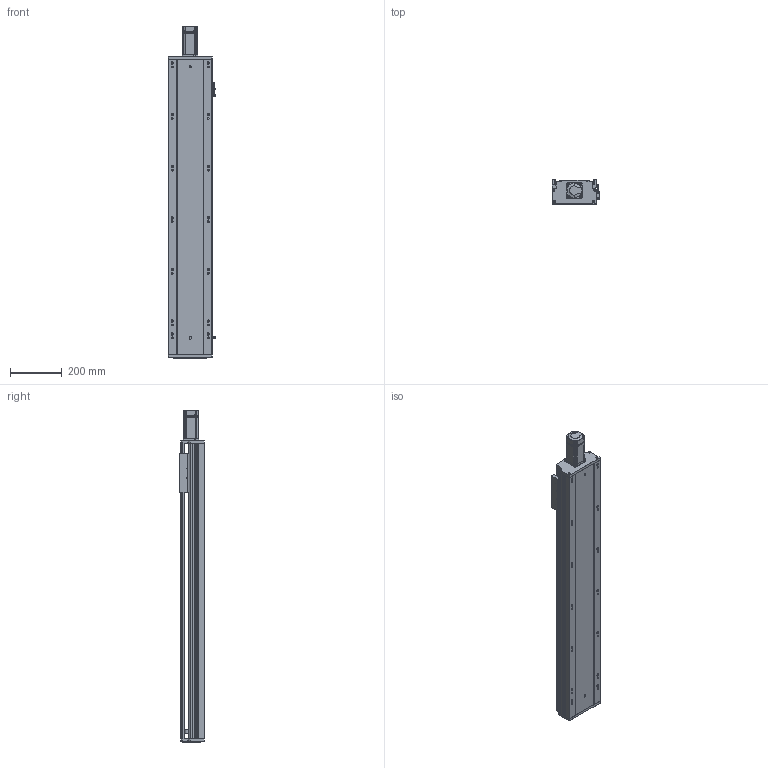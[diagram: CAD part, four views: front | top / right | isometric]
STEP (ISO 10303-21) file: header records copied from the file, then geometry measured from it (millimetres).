
FILE_DESCRIPTION (( 'STEP AP203' ), '1' );
FILE_NAME ('RY170Q-L2020-400-MK.SLDASM_0900.step', '2021-05-31T02:02:59', ( '盈信电脑' ), ( '东莞市道滘镇水果街19号' ), 'SwSTEP 2.0', 'SolidWorks 2016', '' );
FILE_SCHEMA (( 'CONFIG_CONTROL_DESIGN' ));
Length unit declared in the file: millimetre
Products named in the file (12): 覜茼ん672; 15; RY170ヶ醱裔啣; RY170Q-L2020-400-MK.SLDASM_0900; 滅袉蝶18-15; RY170Q-400倰第菁釱-MK_0900; RY170Q-400倰第裔啣-MK_0900; 侂狟400W侜督萇儂; 滅袉蝶18-10; RY170綴裔啣; RY170Q臏賑輸20佪裝蹟譫(FK15); RY170外置感应片(200共用）
Assembly tree (14 placements, depth 3):
  RY170Q-L2020-400-MK.SLDASM_0900
    RY170Q-400倰第菁釱-MK_0900
    RY170Q-400倰第裔啣-MK_0900
    RY170Q臏賑輸20佪裝蹟譫(FK15)
    侂狟400W侜督萇儂
      15
    RY170綴裔啣
    覜茼ん672  x3
    RY170外置感应片(200共用）
    RY170ヶ醱裔啣
    滅袉蝶18-15  x2
    滅袉蝶18-10
Bounding box: 183.7 x 97 x 1286.5 mm (x, y, z)
Volume: 5791982.5 mm3; surface area: 1896532.5 mm2
Topology: 13 solids, 13 shells, 2206 faces, 6303 edges, 4063 vertices
Faces by surface type: plane 1185, cylinder 807, cone 185, bspline 29
Entity records: 69578 total; most frequent: CARTESIAN_POINT 15377, ORIENTED_EDGE 11338, DIRECTION 10740, EDGE_CURVE 5669, VERTEX_POINT 3731, LINE 3644, VECTOR 3644, AXIS2_PLACEMENT_3D 3548
